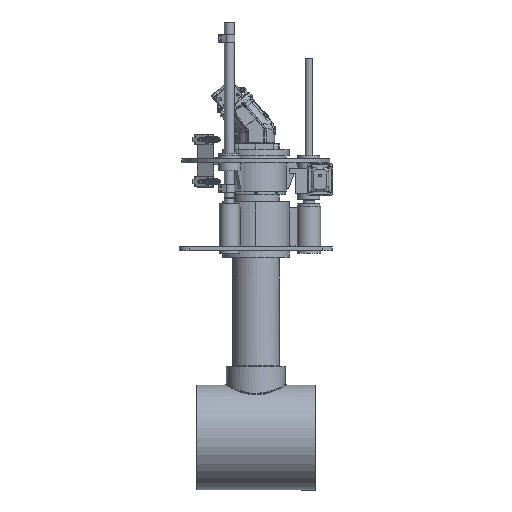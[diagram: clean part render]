
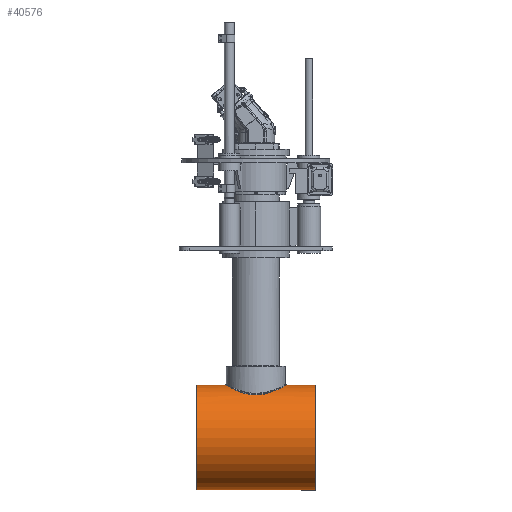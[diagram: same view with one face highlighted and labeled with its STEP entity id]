
A CAD part, front view. The second image highlights one B-rep face of the part: STEP entity #40576.
In plain terms, the highlighted cylindrical face has radius 212.725 mm (diameter 425.45 mm), a full revolution.
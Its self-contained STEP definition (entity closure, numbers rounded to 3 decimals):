
#1685=B_SPLINE_CURVE_WITH_KNOTS('',3,(#59995,#59996,#59997,#59998,#59999,
#60000,#60001,#60002,#60003,#60004,#60005,#60006,#60007,#60008,#60009,#60010,
#60011,#60012),.UNSPECIFIED.,.F.,.F.,(4,2,2,2,2,2,2,2,4),(38.468,
40.879,43.29,45.701,48.112,50.51,
52.907,55.305,57.702),.UNSPECIFIED.);
#1686=B_SPLINE_CURVE_WITH_KNOTS('',3,(#60014,#60015,#60016,#60017,#60018,
#60019,#60020,#60021,#60022,#60023,#60024,#60025,#60026,#60027,#60028,#60029,
#60030,#60031),.UNSPECIFIED.,.F.,.F.,(4,2,2,2,2,2,2,2,4),(19.234,
21.632,24.029,26.427,28.824,31.235,
33.646,36.057,38.468),.UNSPECIFIED.);
#1687=B_SPLINE_CURVE_WITH_KNOTS('',3,(#60033,#60034,#60035,#60036,#60037,
#60038,#60039,#60040,#60041,#60042,#60043,#60044,#60045,#60046,#60047,#60048,
#60049,#60050),.UNSPECIFIED.,.F.,.F.,(4,2,2,2,2,2,2,2,4),(0.,2.411,
4.822,7.233,9.644,12.042,14.439,
16.837,19.234),.UNSPECIFIED.);
#1688=B_SPLINE_CURVE_WITH_KNOTS('',3,(#60051,#60052,#60053,#60054,#60055,
#60056,#60057,#60058,#60059,#60060,#60061,#60062,#60063,#60064,#60065,#60066,
#60067,#60068),.UNSPECIFIED.,.F.,.F.,(4,2,2,2,2,2,2,2,4),(57.702,
60.1,62.497,64.895,67.292,69.703,
72.114,74.525,76.936),.UNSPECIFIED.);
#2660=FACE_BOUND('',#5684,.T.);
#3282=FACE_OUTER_BOUND('',#5683,.T.);
#5683=EDGE_LOOP('',(#25764,#25765,#25766,#25767));
#5684=EDGE_LOOP('',(#25768,#25769,#25770,#25771));
#8709=CIRCLE('',#43121,212.725);
#8710=CIRCLE('',#43122,212.725);
#11351=LINE('',#59991,#13482);
#13482=VECTOR('',#48129,212.725);
#15727=VERTEX_POINT('',#59988);
#15728=VERTEX_POINT('',#59990);
#15729=VERTEX_POINT('',#59993);
#15730=VERTEX_POINT('',#59994);
#15731=VERTEX_POINT('',#60013);
#15732=VERTEX_POINT('',#60032);
#19697=EDGE_CURVE('',#15727,#15727,#8709,.T.);
#19698=EDGE_CURVE('',#15727,#15728,#11351,.T.);
#19699=EDGE_CURVE('',#15728,#15728,#8710,.T.);
#19700=EDGE_CURVE('',#15729,#15730,#1685,.T.);
#19701=EDGE_CURVE('',#15731,#15729,#1686,.T.);
#19702=EDGE_CURVE('',#15732,#15731,#1687,.T.);
#19703=EDGE_CURVE('',#15730,#15732,#1688,.T.);
#25764=ORIENTED_EDGE('',*,*,#19697,.T.);
#25765=ORIENTED_EDGE('',*,*,#19698,.T.);
#25766=ORIENTED_EDGE('',*,*,#19699,.T.);
#25767=ORIENTED_EDGE('',*,*,#19698,.F.);
#25768=ORIENTED_EDGE('',*,*,#19700,.F.);
#25769=ORIENTED_EDGE('',*,*,#19701,.F.);
#25770=ORIENTED_EDGE('',*,*,#19702,.F.);
#25771=ORIENTED_EDGE('',*,*,#19703,.F.);
#37319=CYLINDRICAL_SURFACE('',#43120,212.725);
#40576=ADVANCED_FACE('',(#3282,#2660),#37319,.T.);
#43120=AXIS2_PLACEMENT_3D('',#59987,#48125,#48126);
#43121=AXIS2_PLACEMENT_3D('',#59989,#48127,#48128);
#43122=AXIS2_PLACEMENT_3D('',#59992,#48130,#48131);
#48125=DIRECTION('center_axis',(1.,0.,0.));
#48126=DIRECTION('ref_axis',(0.,0.,
1.));
#48127=DIRECTION('center_axis',(-1.,0.,0.));
#48128=DIRECTION('ref_axis',(0.,0.,
1.));
#48129=DIRECTION('',(-1.,0.,0.));
#48130=DIRECTION('center_axis',(1.,0.,0.));
#48131=DIRECTION('ref_axis',(0.,0.,
1.));
#59987=CARTESIAN_POINT('Origin',(0.,0.,
-758.));
#59988=CARTESIAN_POINT('',(240.,0.,-970.725));
#59989=CARTESIAN_POINT('Origin',(240.,0.,
-758.));
#59990=CARTESIAN_POINT('',(-240.,0.,-970.725));
#59991=CARTESIAN_POINT('',(0.,0.,-970.725));
#59992=CARTESIAN_POINT('Origin',(-240.,0.,
-758.));
#59993=CARTESIAN_POINT('',(0.,-124.,-585.153));
#59994=CARTESIAN_POINT('',(124.,0.,-545.275));
#59995=CARTESIAN_POINT('Ctrl Pts',(0.,-124.,
-585.153));
#59996=CARTESIAN_POINT('Ctrl Pts',(8.037,-124.,-585.153));
#59997=CARTESIAN_POINT('Ctrl Pts',(16.254,-123.207,-584.576));
#59998=CARTESIAN_POINT('Ctrl Pts',(32.441,-119.965,-582.318));
#59999=CARTESIAN_POINT('Ctrl Pts',(40.413,-117.519,-580.643));
#60000=CARTESIAN_POINT('Ctrl Pts',(55.596,-111.144,-576.58));
#60001=CARTESIAN_POINT('Ctrl Pts',(62.823,-107.211,-574.195));
#60002=CARTESIAN_POINT('Ctrl Pts',(76.159,-98.186,-569.22));
#60003=CARTESIAN_POINT('Ctrl Pts',(82.269,-93.094,-566.635));
#60004=CARTESIAN_POINT('Ctrl Pts',(93.064,-82.299,-561.751));
#60005=CARTESIAN_POINT('Ctrl Pts',(98.151,-76.205,-559.268));
#60006=CARTESIAN_POINT('Ctrl Pts',(107.187,-62.864,-554.653));
#60007=CARTESIAN_POINT('Ctrl Pts',(111.135,-55.616,-552.525));
#60008=CARTESIAN_POINT('Ctrl Pts',(117.528,-40.389,-548.998));
#60009=CARTESIAN_POINT('Ctrl Pts',(119.978,-32.394,-547.598));
#60010=CARTESIAN_POINT('Ctrl Pts',(123.215,-16.196,-545.736));
#60011=CARTESIAN_POINT('Ctrl Pts',(124.,-7.992,-545.275));
#60012=CARTESIAN_POINT('Ctrl Pts',(124.,0.,-545.275));
#60013=CARTESIAN_POINT('',(-124.,0.,-545.275));
#60014=CARTESIAN_POINT('Ctrl Pts',(-124.,0.,-545.275));
#60015=CARTESIAN_POINT('Ctrl Pts',(-124.,-7.992,-545.275));
#60016=CARTESIAN_POINT('Ctrl Pts',(-123.215,-16.196,-545.736));
#60017=CARTESIAN_POINT('Ctrl Pts',(-119.978,-32.394,
-547.598));
#60018=CARTESIAN_POINT('Ctrl Pts',(-117.528,-40.389,
-548.998));
#60019=CARTESIAN_POINT('Ctrl Pts',(-111.135,-55.616,
-552.525));
#60020=CARTESIAN_POINT('Ctrl Pts',(-107.187,-62.864,
-554.653));
#60021=CARTESIAN_POINT('Ctrl Pts',(-98.151,-76.205,
-559.268));
#60022=CARTESIAN_POINT('Ctrl Pts',(-93.064,-82.299,
-561.751));
#60023=CARTESIAN_POINT('Ctrl Pts',(-82.269,-93.094,-566.635));
#60024=CARTESIAN_POINT('Ctrl Pts',(-76.159,-98.186,-569.22));
#60025=CARTESIAN_POINT('Ctrl Pts',(-62.823,-107.211,
-574.195));
#60026=CARTESIAN_POINT('Ctrl Pts',(-55.596,-111.144,-576.58));
#60027=CARTESIAN_POINT('Ctrl Pts',(-40.413,-117.519,
-580.643));
#60028=CARTESIAN_POINT('Ctrl Pts',(-32.441,-119.965,
-582.318));
#60029=CARTESIAN_POINT('Ctrl Pts',(-16.254,-123.207,
-584.576));
#60030=CARTESIAN_POINT('Ctrl Pts',(-8.037,-124.,
-585.153));
#60031=CARTESIAN_POINT('Ctrl Pts',(0.,-124.,
-585.153));
#60032=CARTESIAN_POINT('',(0.,124.,-585.153));
#60033=CARTESIAN_POINT('Ctrl Pts',(0.,124.,
-585.153));
#60034=CARTESIAN_POINT('Ctrl Pts',(-8.037,124.,-585.153));
#60035=CARTESIAN_POINT('Ctrl Pts',(-16.254,123.207,-584.576));
#60036=CARTESIAN_POINT('Ctrl Pts',(-32.441,119.965,-582.318));
#60037=CARTESIAN_POINT('Ctrl Pts',(-40.413,117.519,-580.643));
#60038=CARTESIAN_POINT('Ctrl Pts',(-55.596,111.144,-576.58));
#60039=CARTESIAN_POINT('Ctrl Pts',(-62.823,107.211,-574.195));
#60040=CARTESIAN_POINT('Ctrl Pts',(-76.159,98.186,-569.22));
#60041=CARTESIAN_POINT('Ctrl Pts',(-82.269,93.094,-566.635));
#60042=CARTESIAN_POINT('Ctrl Pts',(-93.064,82.299,-561.751));
#60043=CARTESIAN_POINT('Ctrl Pts',(-98.151,76.205,-559.268));
#60044=CARTESIAN_POINT('Ctrl Pts',(-107.187,62.864,-554.653));
#60045=CARTESIAN_POINT('Ctrl Pts',(-111.135,55.616,-552.525));
#60046=CARTESIAN_POINT('Ctrl Pts',(-117.528,40.389,-548.998));
#60047=CARTESIAN_POINT('Ctrl Pts',(-119.978,32.394,-547.598));
#60048=CARTESIAN_POINT('Ctrl Pts',(-123.215,16.196,-545.736));
#60049=CARTESIAN_POINT('Ctrl Pts',(-124.,7.992,-545.275));
#60050=CARTESIAN_POINT('Ctrl Pts',(-124.,0.,-545.275));
#60051=CARTESIAN_POINT('Ctrl Pts',(124.,0.,-545.275));
#60052=CARTESIAN_POINT('Ctrl Pts',(124.,7.992,-545.275));
#60053=CARTESIAN_POINT('Ctrl Pts',(123.215,16.196,-545.736));
#60054=CARTESIAN_POINT('Ctrl Pts',(119.978,32.394,-547.598));
#60055=CARTESIAN_POINT('Ctrl Pts',(117.528,40.389,-548.998));
#60056=CARTESIAN_POINT('Ctrl Pts',(111.135,55.616,-552.525));
#60057=CARTESIAN_POINT('Ctrl Pts',(107.187,62.864,-554.653));
#60058=CARTESIAN_POINT('Ctrl Pts',(98.151,76.205,-559.268));
#60059=CARTESIAN_POINT('Ctrl Pts',(93.064,82.299,-561.751));
#60060=CARTESIAN_POINT('Ctrl Pts',(82.269,93.094,-566.635));
#60061=CARTESIAN_POINT('Ctrl Pts',(76.159,98.186,-569.22));
#60062=CARTESIAN_POINT('Ctrl Pts',(62.823,107.211,-574.195));
#60063=CARTESIAN_POINT('Ctrl Pts',(55.596,111.144,-576.58));
#60064=CARTESIAN_POINT('Ctrl Pts',(40.413,117.519,-580.643));
#60065=CARTESIAN_POINT('Ctrl Pts',(32.441,119.965,-582.318));
#60066=CARTESIAN_POINT('Ctrl Pts',(16.254,123.207,-584.576));
#60067=CARTESIAN_POINT('Ctrl Pts',(8.037,124.,-585.153));
#60068=CARTESIAN_POINT('Ctrl Pts',(0.,124.,
-585.153));
